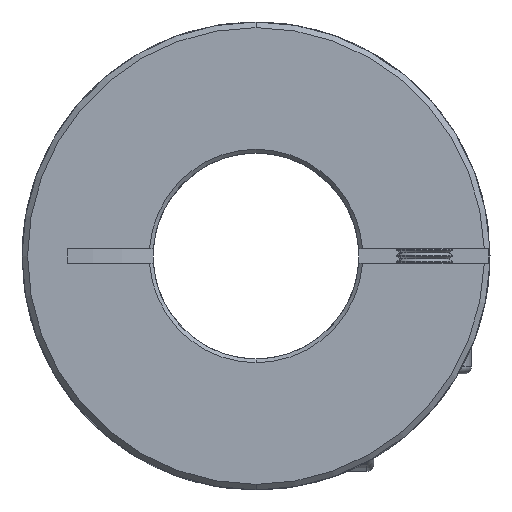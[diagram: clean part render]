
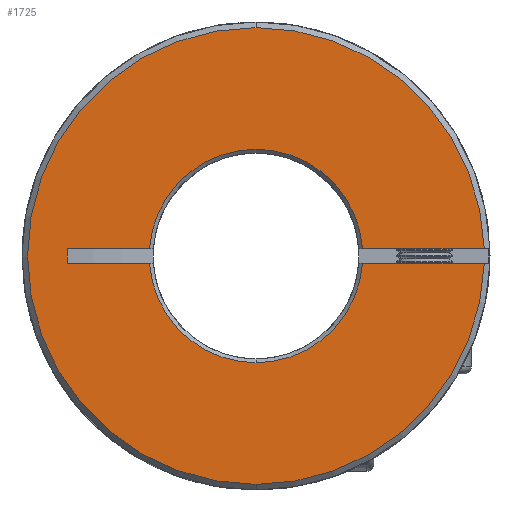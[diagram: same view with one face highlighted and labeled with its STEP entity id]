
A CAD part, front view. The second image highlights one B-rep face of the part: STEP entity #1725.
In plain terms, the highlighted planar face has unit normal (0, -1, 0).
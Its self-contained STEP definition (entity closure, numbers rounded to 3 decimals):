
#7 = VERTEX_POINT ( 'NONE', #8328 ) ;
#15 = VERTEX_POINT ( 'NONE', #11045 ) ;
#77 = VERTEX_POINT ( 'NONE', #106 ) ;
#106 = CARTESIAN_POINT ( 'NONE',  ( 24.388, 0., -0.75 ) ) ;
#156 = EDGE_CURVE ( 'NONE', #1896, #15, #7350, .T. ) ;
#248 = VERTEX_POINT ( 'NONE', #7627 ) ;
#409 = CIRCLE ( 'NONE', #10660, 24.4 ) ;
#525 = DIRECTION ( 'NONE',  ( 0., 0., 1. ) ) ;
#567 = DIRECTION ( 'NONE',  ( 0., 0., 1. ) ) ;
#599 = DIRECTION ( 'NONE',  ( 1., 0., 0. ) ) ;
#807 = LINE ( 'NONE', #10129, #1230 ) ;
#1009 = CARTESIAN_POINT ( 'NONE',  ( -20.149, 0., -0.75 ) ) ;
#1027 = AXIS2_PLACEMENT_3D ( 'NONE', #15336, #8574, #525 ) ;
#1055 = VECTOR ( 'NONE', #7222, 1000. ) ;
#1103 = CARTESIAN_POINT ( 'NONE',  ( 0., 0., 24.4 ) ) ;
#1230 = VECTOR ( 'NONE', #4928, 1000. ) ;
#1234 = DIRECTION ( 'NONE',  ( 0., 0., 1. ) ) ;
#1725 = ADVANCED_FACE ( 'NONE', ( #5830 ), #9847, .F. ) ;
#1896 = VERTEX_POINT ( 'NONE', #11536 ) ;
#2154 = VECTOR ( 'NONE', #6173, 1000. ) ;
#2287 = DIRECTION ( 'NONE',  ( 1., 0., 0. ) ) ;
#2634 = CARTESIAN_POINT ( 'NONE',  ( 11.375, 0., 0.75 ) ) ;
#3417 = LINE ( 'NONE', #3532, #12839 ) ;
#3440 = VERTEX_POINT ( 'NONE', #2634 ) ;
#3532 = CARTESIAN_POINT ( 'NONE',  ( -50., 0., -0.75 ) ) ;
#3625 = ORIENTED_EDGE ( 'NONE', *, *, #9652, .T. ) ;
#3706 = CARTESIAN_POINT ( 'NONE',  ( 0., 0., 0. ) ) ;
#3857 = CARTESIAN_POINT ( 'NONE',  ( 0., 0., -24.4 ) ) ;
#4001 = CIRCLE ( 'NONE', #11445, 11.4 ) ;
#4402 = AXIS2_PLACEMENT_3D ( 'NONE', #7310, #7207, #567 ) ;
#4500 = VERTEX_POINT ( 'NONE', #17021 ) ;
#4541 = ORIENTED_EDGE ( 'NONE', *, *, #14964, .T. ) ;
#4588 = VERTEX_POINT ( 'NONE', #3857 ) ;
#4733 = CARTESIAN_POINT ( 'NONE',  ( -50., 0., -0.75 ) ) ;
#4928 = DIRECTION ( 'NONE',  ( 1., 0., 0. ) ) ;
#5331 = ORIENTED_EDGE ( 'NONE', *, *, #14395, .T. ) ;
#5377 = AXIS2_PLACEMENT_3D ( 'NONE', #12091, #5398, #10816 ) ;
#5398 = DIRECTION ( 'NONE',  ( 0., 1., 0. ) ) ;
#5427 = DIRECTION ( 'NONE',  ( 0., 0., 1. ) ) ;
#5830 = FACE_OUTER_BOUND ( 'NONE', #9733, .T. ) ;
#5971 = CIRCLE ( 'NONE', #1027, 11.4 ) ;
#6067 = ORIENTED_EDGE ( 'NONE', *, *, #10025, .T. ) ;
#6173 = DIRECTION ( 'NONE',  ( 0., 0., 1. ) ) ;
#6585 = ORIENTED_EDGE ( 'NONE', *, *, #156, .T. ) ;
#7207 = DIRECTION ( 'NONE',  ( 0., 1., 0. ) ) ;
#7222 = DIRECTION ( 'NONE',  ( 1., 0., 0. ) ) ;
#7310 = CARTESIAN_POINT ( 'NONE',  ( -50., 0., 32.858 ) ) ;
#7350 = LINE ( 'NONE', #16571, #1055 ) ;
#7462 = VECTOR ( 'NONE', #599, 1000. ) ;
#7510 = ORIENTED_EDGE ( 'NONE', *, *, #16922, .T. ) ;
#7627 = CARTESIAN_POINT ( 'NONE',  ( -11.375, 0., -0.75 ) ) ;
#7911 = CARTESIAN_POINT ( 'NONE',  ( 0., 0., 0. ) ) ;
#8020 = VERTEX_POINT ( 'NONE', #14249 ) ;
#8124 = DIRECTION ( 'NONE',  ( 0., -1., 0. ) ) ;
#8328 = CARTESIAN_POINT ( 'NONE',  ( 11.375, 0., -0.75 ) ) ;
#8373 = EDGE_CURVE ( 'NONE', #8020, #248, #3417, .T. ) ;
#8378 = EDGE_CURVE ( 'NONE', #9915, #17246, #16022, .T. ) ;
#8574 = DIRECTION ( 'NONE',  ( 0., 1., 0. ) ) ;
#9269 = CARTESIAN_POINT ( 'NONE',  ( 0., 0., 0. ) ) ;
#9285 = LINE ( 'NONE', #1009, #2154 ) ;
#9369 = EDGE_CURVE ( 'NONE', #4500, #248, #10917, .T. ) ;
#9652 = EDGE_CURVE ( 'NONE', #7, #4500, #4001, .T. ) ;
#9724 = CIRCLE ( 'NONE', #13083, 24.4 ) ;
#9733 = EDGE_LOOP ( 'NONE', ( #15450, #3625, #10813, #14589, #4541, #6585, #16830, #6067, #12705, #7510, #5331 ) ) ;
#9847 = PLANE ( 'NONE',  #4402 ) ;
#9915 = VERTEX_POINT ( 'NONE', #17370 ) ;
#10025 = EDGE_CURVE ( 'NONE', #3440, #9915, #807, .T. ) ;
#10129 = CARTESIAN_POINT ( 'NONE',  ( -50., 0., 0.75 ) ) ;
#10206 = DIRECTION ( 'NONE',  ( 0., 1., 0. ) ) ;
#10623 = DIRECTION ( 'NONE',  ( 0., -1., 0. ) ) ;
#10660 = AXIS2_PLACEMENT_3D ( 'NONE', #9269, #16052, #1234 ) ;
#10813 = ORIENTED_EDGE ( 'NONE', *, *, #9369, .T. ) ;
#10816 = DIRECTION ( 'NONE',  ( 0., 0., 1. ) ) ;
#10917 = CIRCLE ( 'NONE', #5377, 11.4 ) ;
#11045 = CARTESIAN_POINT ( 'NONE',  ( -11.375, 0., 0.75 ) ) ;
#11046 = LINE ( 'NONE', #4733, #7462 ) ;
#11445 = AXIS2_PLACEMENT_3D ( 'NONE', #3706, #10206, #12829 ) ;
#11536 = CARTESIAN_POINT ( 'NONE',  ( -20.149, 0., 0.75 ) ) ;
#12017 = DIRECTION ( 'NONE',  ( 0., 0., 1. ) ) ;
#12091 = CARTESIAN_POINT ( 'NONE',  ( 0., 0., 0. ) ) ;
#12387 = EDGE_CURVE ( 'NONE', #7, #77, #11046, .T. ) ;
#12705 = ORIENTED_EDGE ( 'NONE', *, *, #8378, .T. ) ;
#12818 = EDGE_CURVE ( 'NONE', #15, #3440, #5971, .T. ) ;
#12829 = DIRECTION ( 'NONE',  ( 0., 0., 1. ) ) ;
#12839 = VECTOR ( 'NONE', #2287, 1000. ) ;
#13083 = AXIS2_PLACEMENT_3D ( 'NONE', #13459, #8124, #5427 ) ;
#13459 = CARTESIAN_POINT ( 'NONE',  ( 0., 0., 0. ) ) ;
#14248 = AXIS2_PLACEMENT_3D ( 'NONE', #7911, #10623, #12017 ) ;
#14249 = CARTESIAN_POINT ( 'NONE',  ( -20.149, 0., -0.75 ) ) ;
#14395 = EDGE_CURVE ( 'NONE', #4588, #77, #9724, .T. ) ;
#14589 = ORIENTED_EDGE ( 'NONE', *, *, #8373, .F. ) ;
#14964 = EDGE_CURVE ( 'NONE', #8020, #1896, #9285, .T. ) ;
#15336 = CARTESIAN_POINT ( 'NONE',  ( 0., 0., 0. ) ) ;
#15450 = ORIENTED_EDGE ( 'NONE', *, *, #12387, .F. ) ;
#16022 = CIRCLE ( 'NONE', #14248, 24.4 ) ;
#16052 = DIRECTION ( 'NONE',  ( 0., -1., 0. ) ) ;
#16571 = CARTESIAN_POINT ( 'NONE',  ( -50., 0., 0.75 ) ) ;
#16830 = ORIENTED_EDGE ( 'NONE', *, *, #12818, .T. ) ;
#16922 = EDGE_CURVE ( 'NONE', #17246, #4588, #409, .T. ) ;
#17021 = CARTESIAN_POINT ( 'NONE',  ( 0., 0., -11.4 ) ) ;
#17246 = VERTEX_POINT ( 'NONE', #1103 ) ;
#17370 = CARTESIAN_POINT ( 'NONE',  ( 24.388, 0., 0.75 ) ) ;
